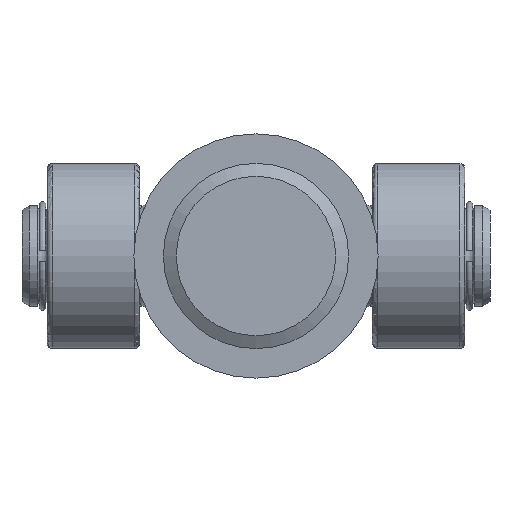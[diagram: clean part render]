
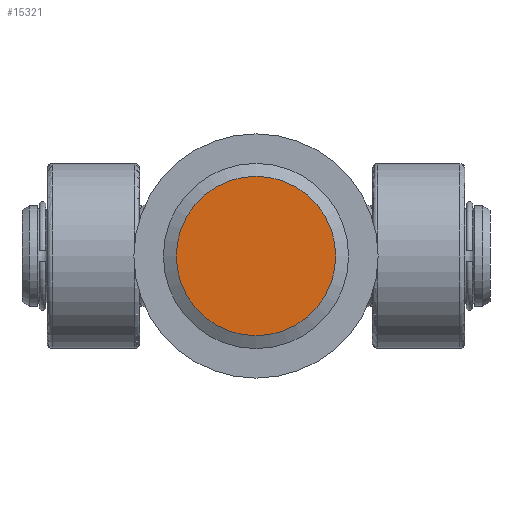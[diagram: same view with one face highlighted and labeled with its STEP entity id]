
A CAD part, front view. The second image highlights one B-rep face of the part: STEP entity #15321.
In plain terms, the highlighted planar face has unit normal (0, -1, 0) as drawn and (0, 0, -1) by its records, which use the part's own axes.
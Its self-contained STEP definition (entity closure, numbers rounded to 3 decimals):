
#3565=PLANE('',#16397);
#4613=FACE_OUTER_BOUND('',#5575,.T.);
#5575=EDGE_LOOP('',(#14300));
#5980=CIRCLE('',#16394,31.);
#7517=VERTEX_POINT('',#33530);
#9783=EDGE_CURVE('',#7517,#7517,#5980,.T.);
#14300=ORIENTED_EDGE('',*,*,#9783,.F.);
#15321=ADVANCED_FACE('',(#4613),#3565,.F.);
#16394=AXIS2_PLACEMENT_3D('',#33531,#19381,#19382);
#16397=AXIS2_PLACEMENT_3D('',#33535,#19387,#19388);
#19381=DIRECTION('center_axis',(0.,0.,1.));
#19382=DIRECTION('ref_axis',(-1.,0.,0.));
#19387=DIRECTION('center_axis',(0.,0.,1.));
#19388=DIRECTION('ref_axis',(1.,0.,0.));
#33530=CARTESIAN_POINT('',(31.,0.,0.));
#33531=CARTESIAN_POINT('Origin',(0.,0.,0.));
#33535=CARTESIAN_POINT('Origin',(0.,0.,
0.));
